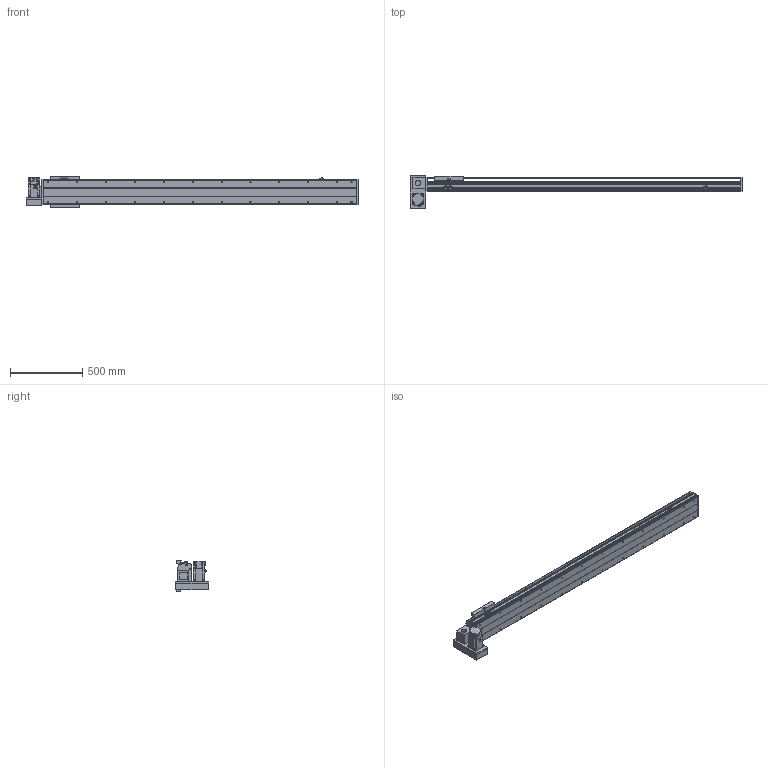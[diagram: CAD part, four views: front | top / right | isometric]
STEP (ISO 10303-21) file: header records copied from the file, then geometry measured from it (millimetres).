
FILE_DESCRIPTION(/* description */ ('STEP AP214'),/* implementation_level */ '2;1');
FILE_NAME(/* name */ 'PBS200-P40-S1800-LD-T75-C1-N(0)',/* time_stamp */ '2022-06-11T08:45:29+02:00',/* author */ ('License CC BY-ND 4.0'),/* organization */ ('CADENAS'),/* preprocessor_version */ 'ST-DEVELOPER v18.102',/* originating_system */ 'PARTsolutions',/* authorisation */ ' ');
FILE_SCHEMA (('AUTOMOTIVE_DESIGN {1 0 10303 214 3 1 1}'));
Length unit declared in the file: millimetre
Products named in the file (7): PBS200-P40-S1800-LD-T75-C1-N(0); PBS200_sensor; PBS200_plant; PBS200_sliser; T75-p1; PBS200T-LD_motors; PBS200-S1800()_body
Assembly tree (8 placements, depth 2):
  PBS200-P40-S1800-LD-T75-C1-N(0)
    PBS200_sensor  x3
    PBS200_plant
    PBS200_sliser
    T75-p1
    PBS200T-LD_motors
    PBS200-S1800()_body
Bounding box: 2300 x 230 x 221 mm (x, y, z)
Volume: 16232684.6 mm3; surface area: 2607256.8 mm2
Topology: 8 solids, 8 shells, 944 faces, 2414 edges, 1572 vertices
Faces by surface type: plane 582, cylinder 306, cone 56
Full cylindrical faces by diameter (mm): 2.459 x6, 3.242 x4, 4.5 x6, 4.917 x4, 5 x6, 6 x7, 6.6 x8, 6.647 x28, 8 x6, 10 x4, 12 x8, 38 x2, 40 x1, 70 x1
Entity records: 25061 total; most frequent: DIRECTION 4423, CARTESIAN_POINT 4264, ORIENTED_EDGE 4030, EDGE_CURVE 2015, AXIS2_PLACEMENT_3D 1555, VERTEX_POINT 1396, LINE 1313, VECTOR 1313
